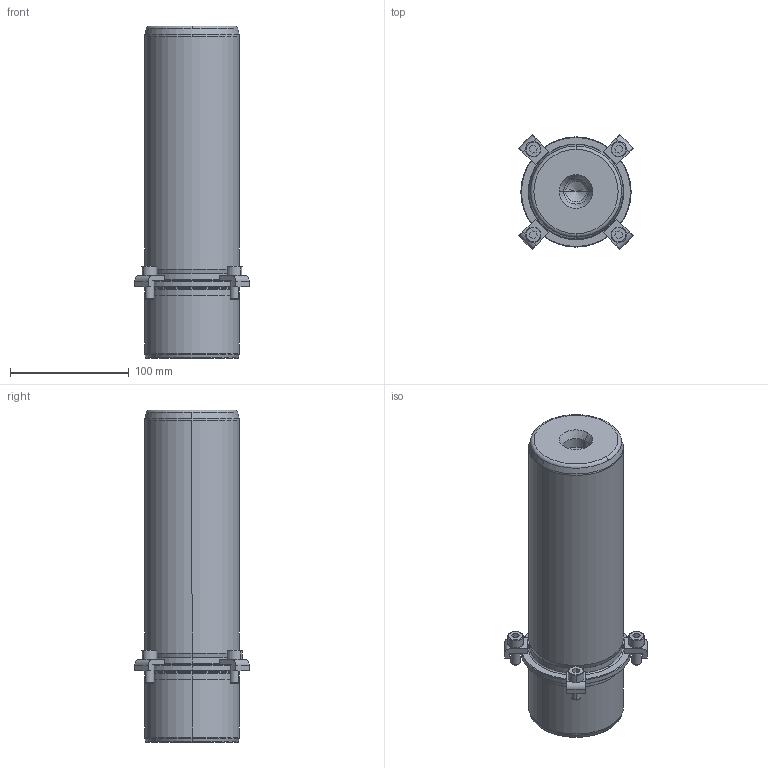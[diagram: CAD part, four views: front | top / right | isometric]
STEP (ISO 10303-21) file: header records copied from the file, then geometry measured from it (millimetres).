
FILE_DESCRIPTION((''),'2;1');
FILE_NAME('P21_080_220.stp','2008-12-19T11:25:19',(''),(''),'Mechanical Desktop 2009','Mechanical Desktop 2009',', , ');
FILE_SCHEMA(('CONFIG_CONTROL_DESIGN'));
Length unit declared in the file: millimetre
Products named in the file (2): Product; blmdl1
Assembly tree (1 placements, depth 2):
  Product
    blmdl1
Bounding box: 96.52 x 96.52 x 280 mm (x, y, z)
Volume: 1392974.8 mm3; surface area: 98219.7 mm2
Topology: 9 solids, 9 shells, 195 faces, 477 edges, 309 vertices
Faces by surface type: plane 77, cylinder 52, cone 34, torus 16, bspline 16
Entity records: 6547 total; most frequent: CARTESIAN_POINT 1683, DIRECTION 1078, ORIENTED_EDGE 946, EDGE_CURVE 473, AXIS2_PLACEMENT_3D 424, VERTEX_POINT 309, CIRCLE 243, VECTOR 230
